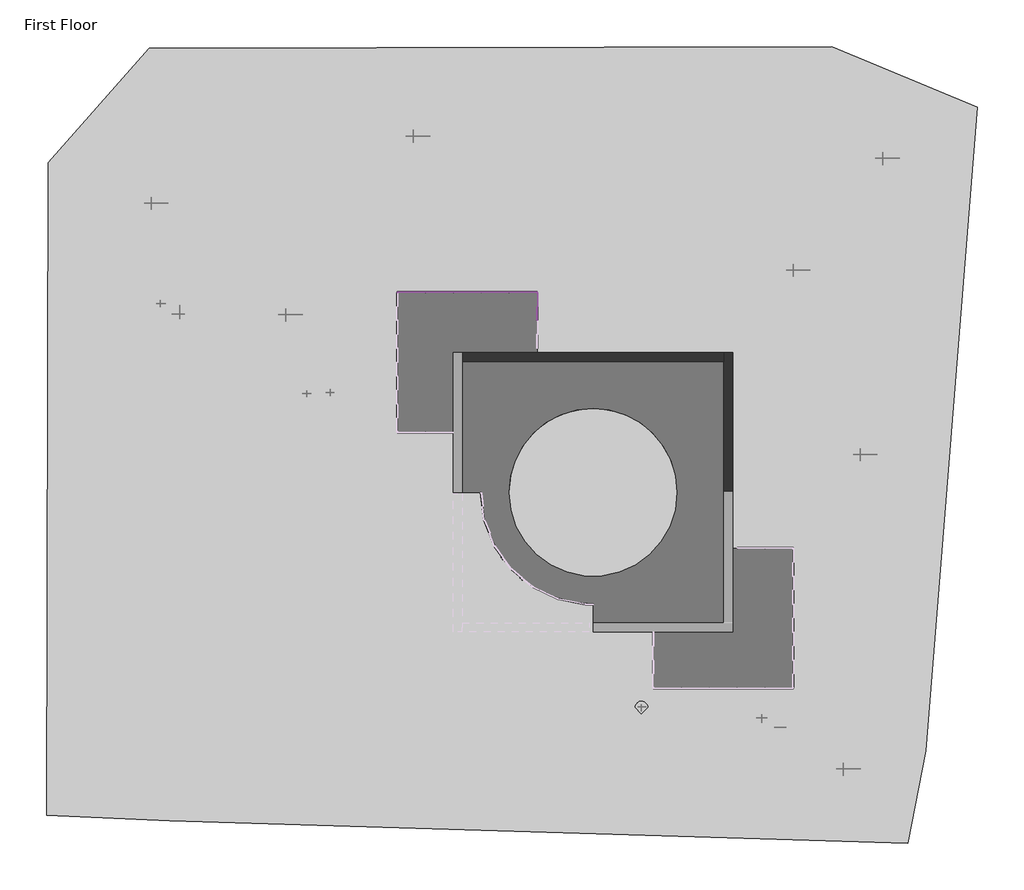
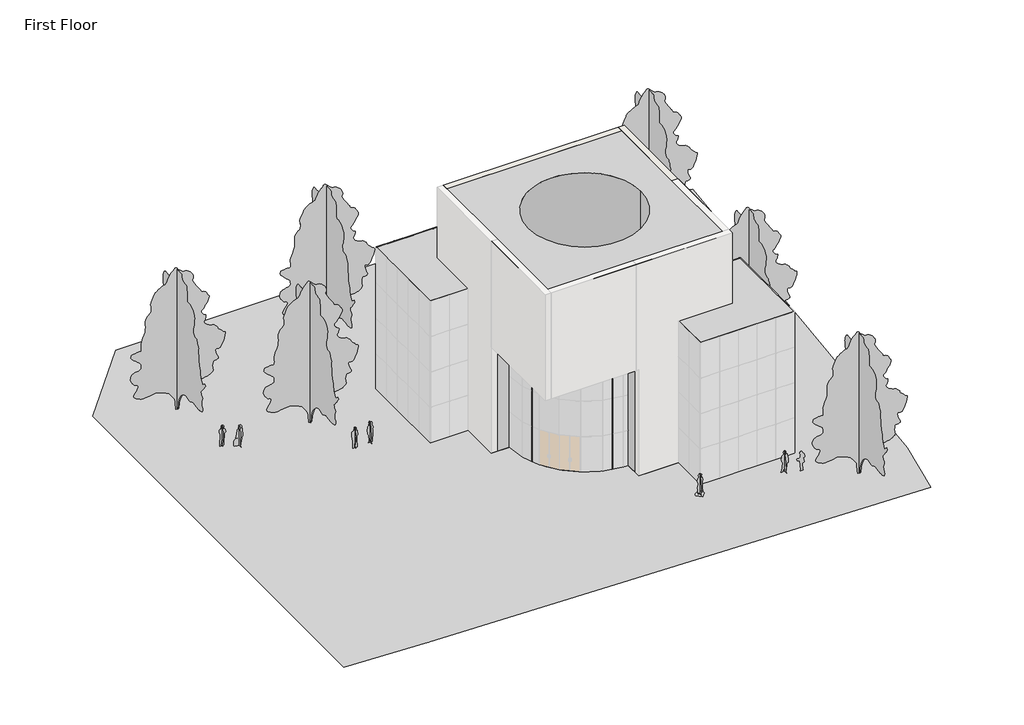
# One storey, part 4 of 4: 65 members, 24 plates, 10 proxies, 7 geographic elements, 2 slabs, 2 walls.
"""IFC4 building model written with IfcOpenShell, lengths in millimetres."""

from ifc_helpers import new_model, si_unit, point, frame, frame_2d, origin, origin_with_axes, place, context, project, spatial, polyline, circle_curve, trimmed, segment, composite_curve, outline, extrude, faceted_brep, triangles, transform, mapped, element, save
from ifc_brep_helpers import plane_surface, cylinder_surface, revolved_surface, advanced_brep
from components import rpc_female_16ef0111, rpc_female_936a91ee, rpc_female_6119fb87, rpc_female_aec5a013, rpc_male_28878092, rpc_male_2293c1c2, rpc_male_04e7faa4, rpc_tree_deciduous_lombardy_poplar_40_01077960, member_6604d1e0, member_9fd3d903, member_5e617a80, member_cbdb9076, member_74941792, member_7e523723, system_panel_glazed_9c75bc08

model = new_model("IFC4")

# Units and contexts
model_context = context("Model", 3, world=origin())
ifc_project = project(units=[si_unit("LENGTHUNIT", "METRE", prefix="MILLI")], contexts=[model_context])

# Site, building, storey
site = spatial("IfcSite", under=ifc_project)
building = spatial("IfcBuilding", under=site)
storey = spatial("IfcBuildingStorey", under=building, Name="First Floor", Elevation=0.0)

# Proxies
placement = place(None, origin())
element("IfcBuildingElementProxy", 1, Name="Building Element Proxy", at=placement, inside=storey, context=model_context, shape_type="Tessellation", body=[
    triangles([(15430.4860474, -16704.0443573, 0.0), (-32394.1622314, 15362.4204346, 0.0), (-26903.7717773, 21610.1041992, 0.0), (10298.3481445, 21704.765863, 0.0), (18249.9465088, 18391.6006531, 0.0), (14463.471817, -21745.0378235, 0.0), (-25767.8294861, -20514.4338684, 0.0), (-32488.8238953, -20230.448877, 0.0)], [[8, 7, 2], [3, 2, 7], [7, 4, 3], [1, 4, 7], [5, 4, 1], [1, 7, 6]], closed=False),
])
element("IfcBuildingElementProxy", 2, Name="Central Hall : Central Hall", ObjectType="Central Hall : Central Hall", at=placement, inside=storey, context=model_context, shape_type="AdvancedBrep", body=[
    advanced_brep(
    [(4920.7859619, 5010.3465511, 0.0), (-10319.2140381, 5010.3465511, 0.0), (-10319.2140381, 5010.3465511, 18288.0), (4920.7859619, 5010.3465511, 18288.0), (-10319.2140381, -2609.6534489, 0.0), (-10319.2140381, -2609.6534489, 9144.0), (-10319.2140381, -10229.6534489, 9144.0), (-10319.2140381, -10229.6534489, 18288.0), (4920.7859619, -10229.6534489, 0.0), (4920.7859619, -10229.6534489, 18288.0), (-2699.2140381, -10229.6534489, 9144.0), (-2699.2140381, -10229.6534489, 0.0), (1872.7859619, -2609.6534489, 18288.0), (-7271.2140381, -2609.6534489, 18288.0), (-2699.2140381, -8705.6534489, 0.0), (-8795.2140381, -2609.6534489, 0.0), (-7271.2140381, -2609.6534489, 0.0), (1872.7859619, -2609.6534489, 0.0), (-8795.2140381, -2609.6534489, 9144.0), (-2699.2140381, -8705.6534489, 9144.0)],
    [
        (0, 1),
        (1, 2),
        (2, 3),
        (3, 0),
        (1, 4),
        (4, 5),
        (5, 6),
        (6, 7),
        (7, 2),
        (8, 9),
        (9, 7),
        (6, 10),
        (10, 11),
        (11, 8),
        (3, 9),
        (8, 0),
        (12, 13, circle_curve(frame((-2699.2140381, -2609.6534489, 18288.0), z_axis=(0.0, 0.0, -1.0), x_axis=(0.0, -1.0, 0.0)), 4572.0)),
        (13, 12, circle_curve(frame((-2699.2140381, -2609.6534489, 18288.0), z_axis=(0.0, 0.0, -1.0), x_axis=(0.0, 1.0, 0.0)), 4572.0)),
        (11, 14),
        (14, 15, circle_curve(frame((-2699.2140381, -2609.6534489, 0.0), z_axis=(0.0, 0.0, -1.0), x_axis=(-1.0, 0.0, 0.0)), 6096.0)),
        (15, 4),
        (16, 17, circle_curve(frame((-2699.2140381, -2609.6534489, 0.0), z_axis=(0.0, 0.0, 1.0), x_axis=(0.0, -1.0, 0.0)), 4572.0)),
        (17, 16, circle_curve(frame((-2699.2140381, -2609.6534489, 0.0), z_axis=(0.0, 0.0, 1.0), x_axis=(0.0, 1.0, 0.0)), 4572.0)),
        (16, 13),
        (12, 17),
        (15, 18),
        (18, 5),
        (10, 19),
        (19, 14),
        (19, 18, circle_curve(frame((-2699.2140381, -2609.6534489, 9144.0), z_axis=(0.0, 0.0, -1.0), x_axis=(-1.0, 0.0, 0.0)), 6096.0)),
    ],
    [
        plane_surface(frame((-2699.2140381, 5010.3465511, 0.0), z_axis=(0.0, 1.0, 0.0), x_axis=(-1.0, 0.0, 0.0))),
        plane_surface(frame((-10319.2140381, -2609.6534489, 0.0), z_axis=(-1.0, 0.0, 0.0), x_axis=(0.0, -1.0, 0.0))),
        plane_surface(frame((-2699.2140381, -10229.6534489, 0.0), z_axis=(0.0, -1.0, 0.0), x_axis=(1.0, 0.0, 0.0))),
        plane_surface(frame((4920.7859619, -2609.6534489, 0.0), z_axis=(1.0, 0.0, 0.0), x_axis=(0.0, 1.0, 0.0))),
        plane_surface(frame((-2699.2140381, -2609.6534489, 18288.0), z_axis=(0.0, 0.0, 1.0), x_axis=(1.0, 0.0, 0.0))),
        plane_surface(frame((-2699.2140381, -2609.6534489, 0.0), z_axis=(0.0, 0.0, -1.0), x_axis=(0.0, -1.0, 0.0))),
        revolved_surface(polyline([(-2699.2140381, -7181.6534489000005, 18288.0), (-2699.2140381, -7181.6534489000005, 0.0)]), (-2699.2140381, -2609.6534489, 0.0), (0.0, 0.0, 1.0)),
        revolved_surface(polyline([(-2699.2140381, 1962.3465511, 18288.0), (-2699.2140381, 1962.3465511, 0.0)]), (-2699.2140381, -2609.6534489, 0.0), (0.0, 0.0, 1.0)),
        plane_surface(frame((-9557.2140381, -2609.6534489, 0.0), z_axis=(0.0, -1.0, 0.0), x_axis=(-1.0, 0.0, 0.0))),
        plane_surface(frame((-2699.2140381, -9467.6534489, 0.0), z_axis=(-1.0, 0.0, 0.0), x_axis=(0.0, 1.0, 0.0))),
        cylinder_surface(frame((-2699.2140381, -2609.6534489, 0.0), z_axis=(0.0, 0.0, 1.0), x_axis=(-1.0, 0.0, 0.0)), 6096.0),
        plane_surface(frame((-6966.4140381, -6876.8534489, 9144.0), z_axis=(0.0, 0.0, -1.0), x_axis=(1.0, 0.0, 0.0))),
    ],
    [
        (0, [[1, 2, 3, 4]]),
        (1, [[-2, 5, 6, 7, 8, 9]]),
        (2, [[10, 11, -8, 12, 13, 14]]),
        (3, [[-4, 15, -10, 16]]),
        (4, [[-3, -9, -11, -15], [17, 18]]),
        (5, [[-1, -16, -14, 19, 20, 21, -5], [22, 23]]),
        (6, [[24, -17, 25, -22]]),
        (7, [[-24, -23, -25, -18]]),
        (8, [[26, 27, -6, -21]]),
        (9, [[28, 29, -19, -13]]),
        (10, [[-26, -20, -29, 30]]),
        (11, [[-27, -30, -28, -12, -7]]),
    ],
),
])
rpc_female_shape = rpc_female_16ef0111(model_context)
element("IfcBuildingElementProxy", 3, Name="RPC Female : Cathy", ObjectType="RPC Female : Cathy", at=placement, inside=storey, context=model_context, shape_type="MappedRepresentation", body=[
    mapped(rpc_female_shape, transform((-25301.2749413, 7226.184638, 0.0), x_axis=(1.0, 0.0, 0.0), y_axis=(0.0, 1.0, 0.0), z_axis=(0.0, 0.0, 1.0))),
])
rpc_female_2_shape = rpc_female_936a91ee(model_context)
element("IfcBuildingElementProxy", 4, Name="RPC Female : Tina", ObjectType="RPC Female : Tina", at=placement, inside=storey, context=model_context, shape_type="MappedRepresentation", body=[
    mapped(rpc_female_2_shape, transform((-65.4799403, -14344.4534489, 0.0), x_axis=(1.0, 0.0, 0.0), y_axis=(0.0, 1.0, 0.0), z_axis=(0.0, 0.0, 1.0))),
])
rpc_female_3_shape = rpc_female_6119fb87(model_context)
element("IfcBuildingElementProxy", 5, Name="RPC Female : YinYin", ObjectType="RPC Female : YinYin", at=placement, inside=storey, context=model_context, shape_type="MappedRepresentation", body=[
    mapped(rpc_female_3_shape, transform((-17007.9779084, 2781.4965511, 0.0), x_axis=(1.0, 0.0, 0.0), y_axis=(0.0, 1.0, 0.0), z_axis=(0.0, 0.0, 1.0))),
])
rpc_female_4_shape = rpc_female_aec5a013(model_context)
element("IfcBuildingElementProxy", 6, Name="RPC Female : Lisa", ObjectType="RPC Female : Lisa", at=placement, inside=storey, context=model_context, shape_type="MappedRepresentation", body=[
    mapped(rpc_female_4_shape, transform((7498.479708, -15411.2534489, 0.0), x_axis=(1.0, 0.0, 0.0), y_axis=(0.0, 1.0, 0.0), z_axis=(0.0, 0.0, 1.0))),
])
rpc_male_shape = rpc_male_28878092(model_context)
element("IfcBuildingElementProxy", 7, Name="RPC Male : Dwayne", ObjectType="RPC Male : Dwayne", at=placement, inside=storey, context=model_context, shape_type="MappedRepresentation", body=[
    mapped(rpc_male_shape, transform((-18311.3639198, 2781.4965511, 0.0), x_axis=(1.0, 0.0, 0.0), y_axis=(0.0, 1.0, 0.0), z_axis=(0.0, 0.0, 1.0))),
])
rpc_male_2_shape = rpc_male_2293c1c2(model_context)
element("IfcBuildingElementProxy", 8, Name="RPC Male : Alex", ObjectType="RPC Male : Alex", at=placement, inside=storey, context=model_context, shape_type="MappedRepresentation", body=[
    mapped(rpc_male_2_shape, transform((6491.1991467, -14954.0534489, 0.0), x_axis=(1.0, 0.0, 0.0), y_axis=(0.0, 1.0, 0.0), z_axis=(0.0, 0.0, 1.0))),
])
rpc_male_3_shape = rpc_male_04e7faa4(model_context)
element("IfcBuildingElementProxy", 9, Name="RPC Male : Jay", ObjectType="RPC Male : Jay", at=placement, inside=storey, context=model_context, shape_type="MappedRepresentation", body=[
    mapped(rpc_male_3_shape, transform((-26312.1907155, 7683.384638, 0.0), x_axis=(1.0, 0.0, 0.0), y_axis=(0.0, 1.0, 0.0), z_axis=(0.0, 0.0, 1.0))),
])
element("IfcBuildingElementProxy", 10, Name="Wings : Wings", ObjectType="Wings : Wings", at=placement, inside=storey, context=model_context, shape_type="SweptSolid", body=[
    extrude(outline(polyline([(-13367.2140381, 672.984638), (-13367.2140381, 8292.984638), (-5747.2140381, 8292.984638), (-5747.2140381, 5244.984638), (-5747.2140381, 5010.3465511), (-10319.2140381, 5010.3465511), (-10319.2140381, 672.984638), (-13367.2140381, 672.984638)])), origin_with_axes(), (0.0, 0.0, 1.0), 12192.0),
    extrude(outline(polyline([(583.4240488, -13277.6534489), (583.4240488, -10229.6534489), (4920.7859619, -10229.6534489), (4920.7859619, -5657.6534489), (5155.4240488, -5657.6534489), (8203.4240488, -5657.6534489), (8203.4240488, -13277.6534489), (583.4240488, -13277.6534489)])), origin_with_axes(), (0.0, 0.0, 1.0), 12192.0),
])

# Geographic elements
rpc_tree_deciduous_lombardy_poplar_40_shape = rpc_tree_deciduous_lombardy_poplar_40_01077960(model_context)
element("IfcGeographicElement", 11, ObjectType="RPC Tree - Deciduous : Lombardy Poplar - 40'", at=placement, inside=storey, context=model_context, shape_type="MappedRepresentation", body=[
    mapped(rpc_tree_deciduous_lombardy_poplar_40_shape, transform((-26778.4140381, 13169.784638, 0.0), x_axis=(1.0, 0.0, 0.0), y_axis=(0.0, 1.0, 0.0), z_axis=(0.0, 0.0, 1.0))),
])
element("IfcGeographicElement", 12, ObjectType="RPC Tree - Deciduous : Lombardy Poplar - 40'", at=placement, inside=storey, context=model_context, shape_type="MappedRepresentation", body=[
    mapped(rpc_tree_deciduous_lombardy_poplar_40_shape, transform((-19463.2140381, 7073.784638, 0.0), x_axis=(1.0, 0.0, 0.0), y_axis=(0.0, 1.0, 0.0), z_axis=(0.0, 0.0, 1.0))),
])
element("IfcGeographicElement", 13, ObjectType="RPC Tree - Deciduous : Lombardy Poplar - 40'", at=placement, inside=storey, context=model_context, shape_type="MappedRepresentation", body=[
    mapped(rpc_tree_deciduous_lombardy_poplar_40_shape, transform((-12509.9640381, 16827.384638, 0.0), x_axis=(1.0, 0.0, 0.0), y_axis=(0.0, 1.0, 0.0), z_axis=(0.0, 0.0, 1.0))),
])
element("IfcGeographicElement", 14, ObjectType="RPC Tree - Deciduous : Lombardy Poplar - 40'", at=placement, inside=storey, context=model_context, shape_type="MappedRepresentation", body=[
    mapped(rpc_tree_deciduous_lombardy_poplar_40_shape, transform((13080.2240488, 15608.184638, 0.0), x_axis=(1.0, 0.0, 0.0), y_axis=(0.0, 1.0, 0.0), z_axis=(0.0, 0.0, 1.0))),
])
element("IfcGeographicElement", 15, ObjectType="RPC Tree - Deciduous : Lombardy Poplar - 40'", at=placement, inside=storey, context=model_context, shape_type="MappedRepresentation", body=[
    mapped(rpc_tree_deciduous_lombardy_poplar_40_shape, transform((8203.4240488, 9512.184638, 0.0), x_axis=(1.0, 0.0, 0.0), y_axis=(0.0, 1.0, 0.0), z_axis=(0.0, 0.0, 1.0))),
])
element("IfcGeographicElement", 16, ObjectType="RPC Tree - Deciduous : Lombardy Poplar - 40'", at=placement, inside=storey, context=model_context, shape_type="MappedRepresentation", body=[
    mapped(rpc_tree_deciduous_lombardy_poplar_40_shape, transform((11861.0240488, -546.215362, 0.0), x_axis=(1.0, 0.0, 0.0), y_axis=(0.0, 1.0, 0.0), z_axis=(0.0, 0.0, 1.0))),
])
element("IfcGeographicElement", 17, ObjectType="RPC Tree - Deciduous : Lombardy Poplar - 40'", at=placement, inside=storey, context=model_context, shape_type="MappedRepresentation", body=[
    mapped(rpc_tree_deciduous_lombardy_poplar_40_shape, transform((10946.6240488, -17697.2534489, 0.0), x_axis=(1.0, 0.0, 0.0), y_axis=(0.0, 1.0, 0.0), z_axis=(0.0, 0.0, 1.0))),
])

# Members
member_shape = member_6604d1e0(model_context)
element("IfcMember", 18, ObjectType="Rectangular Mullion : 1\" Square", at=placement, inside=storey, context=model_context, shape_type="MappedRepresentation", body=[
    mapped(member_shape, transform((-10331.9140381, 8292.984638, 0.0), x_axis=(0.0, 0.0, -1.0), y_axis=(0.0, 1.0, 0.0), z_axis=(1.0, 0.0, 0.0))),
])
element("IfcMember", 19, ObjectType="Rectangular Mullion : 1\" Square", at=placement, inside=storey, context=model_context, shape_type="MappedRepresentation", body=[
    mapped(member_shape, transform((-8807.9140381, 8292.984638, 0.0), x_axis=(0.0, 0.0, -1.0), y_axis=(0.0, 1.0, 0.0), z_axis=(1.0, 0.0, 0.0))),
])
element("IfcMember", 20, ObjectType="Rectangular Mullion : 1\" Square", at=placement, inside=storey, context=model_context, shape_type="MappedRepresentation", body=[
    mapped(member_shape, transform((-7283.9140381, 8292.984638, 0.0), x_axis=(0.0, 0.0, -1.0), y_axis=(0.0, 1.0, 0.0), z_axis=(1.0, 0.0, 0.0))),
])
member_2_shape = member_9fd3d903(model_context)
element("IfcMember", 21, ObjectType="Rectangular Mullion : 1\" Square", at=placement, inside=storey, context=model_context, shape_type="MappedRepresentation", body=[
    mapped(member_2_shape, transform((-10306.5140381, 8292.984638, 6096.0), x_axis=(0.0, 0.0, 1.0), y_axis=(0.0, 1.0, 0.0), z_axis=(-1.0, 0.0, 0.0))),
])
element("IfcMember", 22, ObjectType="Rectangular Mullion : 1\" Square", at=placement, inside=storey, context=model_context, shape_type="MappedRepresentation", body=[
    mapped(member_2_shape, transform((-10306.5140381, 8292.984638, 3048.0), x_axis=(0.0, 0.0, 1.0), y_axis=(0.0, 1.0, 0.0), z_axis=(-1.0, 0.0, 0.0))),
])
element("IfcMember", 23, ObjectType="Rectangular Mullion : 1\" Square", at=placement, inside=storey, context=model_context, shape_type="MappedRepresentation", body=[
    mapped(member_2_shape, transform((-8782.5140381, 8292.984638, 6096.0), x_axis=(0.0, 0.0, 1.0), y_axis=(0.0, 1.0, 0.0), z_axis=(-1.0, 0.0, 0.0))),
])
element("IfcMember", 24, ObjectType="Rectangular Mullion : 1\" Square", at=placement, inside=storey, context=model_context, shape_type="MappedRepresentation", body=[
    mapped(member_2_shape, transform((-11830.5140381, 8292.984638, 3048.0), x_axis=(0.0, 0.0, 1.0), y_axis=(0.0, 1.0, 0.0), z_axis=(-1.0, 0.0, 0.0))),
])
element("IfcMember", 25, ObjectType="Rectangular Mullion : 1\" Square", at=placement, inside=storey, context=model_context, shape_type="MappedRepresentation", body=[
    mapped(member_2_shape, transform((-8782.5140381, 8292.984638, 3048.0), x_axis=(0.0, 0.0, 1.0), y_axis=(0.0, 1.0, 0.0), z_axis=(-1.0, 0.0, 0.0))),
])
element("IfcMember", 26, ObjectType="Rectangular Mullion : 1\" Square", at=placement, inside=storey, context=model_context, shape_type="MappedRepresentation", body=[
    mapped(member_2_shape, transform((-11830.5140381, 8292.984638, 9144.0), x_axis=(0.0, 0.0, 1.0), y_axis=(0.0, 1.0, 0.0), z_axis=(-1.0, 0.0, 0.0))),
])
element("IfcMember", 27, ObjectType="Rectangular Mullion : 1\" Square", at=placement, inside=storey, context=model_context, shape_type="MappedRepresentation", body=[
    mapped(member_2_shape, transform((-8782.5140381, 8292.984638, 9144.0), x_axis=(0.0, 0.0, 1.0), y_axis=(0.0, 1.0, 0.0), z_axis=(-1.0, 0.0, 0.0))),
])
element("IfcMember", 28, ObjectType="Rectangular Mullion : 1\" Square", at=placement, inside=storey, context=model_context, shape_type="MappedRepresentation", body=[
    mapped(member_2_shape, transform((-10306.5140381, 8292.984638, 9144.0), x_axis=(0.0, 0.0, 1.0), y_axis=(0.0, 1.0, 0.0), z_axis=(-1.0, 0.0, 0.0))),
])
element("IfcMember", 29, ObjectType="Rectangular Mullion : 1\" Square", at=placement, inside=storey, context=model_context, shape_type="MappedRepresentation", body=[
    mapped(member_2_shape, transform((-11830.5140381, 8292.984638, 6096.0), x_axis=(0.0, 0.0, 1.0), y_axis=(0.0, 1.0, 0.0), z_axis=(-1.0, 0.0, 0.0))),
])
member_3_shape = member_5e617a80(model_context)
element("IfcMember", 30, ObjectType="Rectangular Mullion : 1\" Square", at=placement, inside=storey, context=model_context, shape_type="MappedRepresentation", body=[
    mapped(member_3_shape, transform((-5747.2140381, 8267.584638, 3048.0), x_axis=(0.0, 0.0, 1.0), y_axis=(1.0, 0.0, 0.0), z_axis=(0.0, 1.0, 0.0))),
])
element("IfcMember", 31, ObjectType="Rectangular Mullion : 1\" Square", at=placement, inside=storey, context=model_context, shape_type="MappedRepresentation", body=[
    mapped(member_3_shape, transform((-5747.2140381, 8267.584638, 9144.0), x_axis=(0.0, 0.0, 1.0), y_axis=(1.0, 0.0, 0.0), z_axis=(0.0, 1.0, 0.0))),
])
element("IfcMember", 32, ObjectType="Rectangular Mullion : 1\" Square", at=placement, inside=storey, context=model_context, shape_type="MappedRepresentation", body=[
    mapped(member_3_shape, transform((-5747.2140381, 8267.584638, 6096.0), x_axis=(0.0, 0.0, 1.0), y_axis=(1.0, 0.0, 0.0), z_axis=(0.0, 1.0, 0.0))),
])
element("IfcMember", 33, ObjectType="Rectangular Mullion : 1\" Square", at=placement, inside=storey, context=model_context, shape_type="MappedRepresentation", body=[
    mapped(member_3_shape, transform((-13341.8140381, 8292.984638, 9144.0), x_axis=(0.0, 0.0, 1.0), y_axis=(0.0, 1.0, 0.0), z_axis=(-1.0, 0.0, 0.0))),
])
element("IfcMember", 34, ObjectType="Rectangular Mullion : 1\" Square", at=placement, inside=storey, context=model_context, shape_type="MappedRepresentation", body=[
    mapped(member_3_shape, transform((-7258.5140381, 8292.984638, 3048.0), x_axis=(0.0, 0.0, 1.0), y_axis=(0.0, 1.0, 0.0), z_axis=(-1.0, 0.0, 0.0))),
])
element("IfcMember", 35, ObjectType="Rectangular Mullion : 1\" Square", at=placement, inside=storey, context=model_context, shape_type="MappedRepresentation", body=[
    mapped(member_3_shape, transform((-7258.5140381, 8292.984638, 6096.0), x_axis=(0.0, 0.0, 1.0), y_axis=(0.0, 1.0, 0.0), z_axis=(-1.0, 0.0, 0.0))),
])
element("IfcMember", 36, ObjectType="Rectangular Mullion : 1\" Square", at=placement, inside=storey, context=model_context, shape_type="MappedRepresentation", body=[
    mapped(member_3_shape, transform((-13341.8140381, 8292.984638, 3048.0), x_axis=(0.0, 0.0, 1.0), y_axis=(0.0, 1.0, 0.0), z_axis=(-1.0, 0.0, 0.0))),
])
element("IfcMember", 37, ObjectType="Rectangular Mullion : 1\" Square", at=placement, inside=storey, context=model_context, shape_type="MappedRepresentation", body=[
    mapped(member_3_shape, transform((-13341.8140381, 8292.984638, 6096.0), x_axis=(0.0, 0.0, 1.0), y_axis=(0.0, 1.0, 0.0), z_axis=(-1.0, 0.0, 0.0))),
])
element("IfcMember", 38, ObjectType="Rectangular Mullion : 1\" Square", at=placement, inside=storey, context=model_context, shape_type="MappedRepresentation", body=[
    mapped(member_3_shape, transform((-7258.5140381, 8292.984638, 9144.0), x_axis=(0.0, 0.0, 1.0), y_axis=(0.0, 1.0, 0.0), z_axis=(-1.0, 0.0, 0.0))),
])
member_4_shape = member_cbdb9076(model_context)
element("IfcMember", 39, ObjectType="Rectangular Mullion : 1\" Square", at=placement, inside=storey, context=model_context, shape_type="MappedRepresentation", body=[
    mapped(member_4_shape, transform((-5747.2140381, 6768.984638, 9144.0), x_axis=(0.0, 1.0, 0.0), y_axis=(1.0, 0.0, 0.0), z_axis=(0.0, 0.0, -1.0))),
])
element("IfcMember", 40, ObjectType="Rectangular Mullion : 1\" Square", at=placement, inside=storey, context=model_context, shape_type="MappedRepresentation", body=[
    mapped(member_4_shape, transform((-10319.2140381, 8292.984638, 9144.0), x_axis=(-1.0, 0.0, 0.0), y_axis=(0.0, 1.0, 0.0), z_axis=(0.0, 0.0, -1.0))),
])
element("IfcMember", 41, ObjectType="Rectangular Mullion : 1\" Square", at=placement, inside=storey, context=model_context, shape_type="MappedRepresentation", body=[
    mapped(member_4_shape, transform((-8795.2140381, 8292.984638, 9144.0), x_axis=(-1.0, 0.0, 0.0), y_axis=(0.0, 1.0, 0.0), z_axis=(0.0, 0.0, -1.0))),
])
element("IfcMember", 42, ObjectType="Rectangular Mullion : 1\" Square", at=placement, inside=storey, context=model_context, shape_type="MappedRepresentation", body=[
    mapped(member_4_shape, transform((-7271.2140381, 8292.984638, 9144.0), x_axis=(-1.0, 0.0, 0.0), y_axis=(0.0, 1.0, 0.0), z_axis=(0.0, 0.0, -1.0))),
])
element("IfcMember", 43, ObjectType="Rectangular Mullion : 1\" Square", at=placement, inside=storey, context=model_context, shape_type="MappedRepresentation", body=[
    mapped(member_4_shape, transform((-11843.2140381, 8292.984638, 9144.0), x_axis=(-1.0, 0.0, 0.0), y_axis=(0.0, 1.0, 0.0), z_axis=(0.0, 0.0, -1.0))),
])
element("IfcMember", 44, ObjectType="Rectangular Mullion : 1\" Square", at=placement, inside=storey, context=model_context, shape_type="MappedRepresentation", body=[
    mapped(member_4_shape, transform((-5747.2140381, 6768.984638, 3048.0), x_axis=(0.0, 1.0, 0.0), y_axis=(1.0, 0.0, 0.0), z_axis=(0.0, 0.0, -1.0))),
])
element("IfcMember", 45, ObjectType="Rectangular Mullion : 1\" Square", at=placement, inside=storey, context=model_context, shape_type="MappedRepresentation", body=[
    mapped(member_4_shape, transform((-5747.2140381, 6768.984638, 6096.0), x_axis=(0.0, 1.0, 0.0), y_axis=(1.0, 0.0, 0.0), z_axis=(0.0, 0.0, -1.0))),
])
element("IfcMember", 46, ObjectType="Rectangular Mullion : 1\" Square", at=placement, inside=storey, context=model_context, shape_type="MappedRepresentation", body=[
    mapped(member_4_shape, transform((-11843.2140381, 8292.984638, 3048.0), x_axis=(-1.0, 0.0, 0.0), y_axis=(0.0, 1.0, 0.0), z_axis=(0.0, 0.0, -1.0))),
])
element("IfcMember", 47, ObjectType="Rectangular Mullion : 1\" Square", at=placement, inside=storey, context=model_context, shape_type="MappedRepresentation", body=[
    mapped(member_4_shape, transform((-10319.2140381, 8292.984638, 6096.0), x_axis=(-1.0, 0.0, 0.0), y_axis=(0.0, 1.0, 0.0), z_axis=(0.0, 0.0, -1.0))),
])
element("IfcMember", 48, ObjectType="Rectangular Mullion : 1\" Square", at=placement, inside=storey, context=model_context, shape_type="MappedRepresentation", body=[
    mapped(member_4_shape, transform((-10319.2140381, 8292.984638, 3048.0), x_axis=(-1.0, 0.0, 0.0), y_axis=(0.0, 1.0, 0.0), z_axis=(0.0, 0.0, -1.0))),
])
element("IfcMember", 49, ObjectType="Rectangular Mullion : 1\" Square", at=placement, inside=storey, context=model_context, shape_type="MappedRepresentation", body=[
    mapped(member_4_shape, transform((-8795.2140381, 8292.984638, 6096.0), x_axis=(-1.0, 0.0, 0.0), y_axis=(0.0, 1.0, 0.0), z_axis=(0.0, 0.0, -1.0))),
])
element("IfcMember", 50, ObjectType="Rectangular Mullion : 1\" Square", at=placement, inside=storey, context=model_context, shape_type="MappedRepresentation", body=[
    mapped(member_4_shape, transform((-8795.2140381, 8292.984638, 3048.0), x_axis=(-1.0, 0.0, 0.0), y_axis=(0.0, 1.0, 0.0), z_axis=(0.0, 0.0, -1.0))),
])
element("IfcMember", 51, ObjectType="Rectangular Mullion : 1\" Square", at=placement, inside=storey, context=model_context, shape_type="MappedRepresentation", body=[
    mapped(member_4_shape, transform((-7271.2140381, 8292.984638, 6096.0), x_axis=(-1.0, 0.0, 0.0), y_axis=(0.0, 1.0, 0.0), z_axis=(0.0, 0.0, -1.0))),
])
element("IfcMember", 52, ObjectType="Rectangular Mullion : 1\" Square", at=placement, inside=storey, context=model_context, shape_type="MappedRepresentation", body=[
    mapped(member_4_shape, transform((-7271.2140381, 8292.984638, 3048.0), x_axis=(-1.0, 0.0, 0.0), y_axis=(0.0, 1.0, 0.0), z_axis=(0.0, 0.0, -1.0))),
])
element("IfcMember", 53, ObjectType="Rectangular Mullion : 1\" Square", at=placement, inside=storey, context=model_context, shape_type="MappedRepresentation", body=[
    mapped(member_4_shape, transform((-11843.2140381, 8292.984638, 6096.0), x_axis=(-1.0, 0.0, 0.0), y_axis=(0.0, 1.0, 0.0), z_axis=(0.0, 0.0, -1.0))),
])
element("IfcMember", 54, ObjectType="Rectangular Mullion : 1\" Square", at=placement, inside=storey, context=model_context, shape_type="MappedRepresentation", body=[
    mapped(member_shape, transform((-11830.5140381, 8292.984638, 12192.0), x_axis=(0.0, 0.0, 1.0), y_axis=(0.0, 1.0, 0.0), z_axis=(-1.0, 0.0, 0.0))),
])
element("IfcMember", 55, ObjectType="Rectangular Mullion : 1\" Square", at=placement, inside=storey, context=model_context, shape_type="MappedRepresentation", body=[
    mapped(member_shape, transform((-10306.5140381, 8292.984638, 12192.0), x_axis=(0.0, 0.0, 1.0), y_axis=(0.0, 1.0, 0.0), z_axis=(-1.0, 0.0, 0.0))),
])
element("IfcMember", 56, ObjectType="Rectangular Mullion : 1\" Square", at=placement, inside=storey, context=model_context, shape_type="MappedRepresentation", body=[
    mapped(member_shape, transform((-8782.5140381, 8292.984638, 12192.0), x_axis=(0.0, 0.0, 1.0), y_axis=(0.0, 1.0, 0.0), z_axis=(-1.0, 0.0, 0.0))),
])
member_5_shape = member_74941792(model_context)
element("IfcMember", 57, ObjectType="Rectangular Mullion : 1\" Square", at=placement, inside=storey, context=model_context, shape_type="MappedRepresentation", body=[
    mapped(member_5_shape, transform((-11855.9140381, 8292.984638, 0.0), x_axis=(0.0, 0.0, -1.0), y_axis=(0.0, 1.0, 0.0), z_axis=(1.0, 0.0, 0.0))),
])
element("IfcMember", 58, ObjectType="Rectangular Mullion : 1\" Square", at=placement, inside=storey, context=model_context, shape_type="MappedRepresentation", body=[
    mapped(member_5_shape, transform((-5772.6140381, 8292.984638, 0.0), x_axis=(0.0, 0.0, -1.0), y_axis=(0.0, 1.0, 0.0), z_axis=(1.0, 0.0, 0.0))),
])
element("IfcMember", 59, ObjectType="Rectangular Mullion : 1\" Square", at=placement, inside=storey, context=model_context, shape_type="MappedRepresentation", body=[
    mapped(member_5_shape, transform((-13367.2140381, 8267.584638, 0.0), x_axis=(0.0, 0.0, -1.0), y_axis=(-1.0, 0.0, 0.0), z_axis=(0.0, 1.0, 0.0))),
])
element("IfcMember", 60, ObjectType="Rectangular Mullion : 1\" Square", at=placement, inside=storey, context=model_context, shape_type="MappedRepresentation", body=[
    mapped(member_5_shape, transform((-5747.2140381, 8267.584638, 12192.0), x_axis=(0.0, 0.0, 1.0), y_axis=(1.0, 0.0, 0.0), z_axis=(0.0, 1.0, 0.0))),
])
element("IfcMember", 61, ObjectType="Rectangular Mullion : 1\" Square", at=placement, inside=storey, context=model_context, shape_type="MappedRepresentation", body=[
    mapped(member_5_shape, transform((-7258.5140381, 8292.984638, 12192.0), x_axis=(0.0, 0.0, 1.0), y_axis=(0.0, 1.0, 0.0), z_axis=(-1.0, 0.0, 0.0))),
])
element("IfcMember", 62, ObjectType="Rectangular Mullion : 1\" Square", at=placement, inside=storey, context=model_context, shape_type="MappedRepresentation", body=[
    mapped(member_5_shape, transform((-13341.8140381, 8292.984638, 12192.0), x_axis=(0.0, 0.0, 1.0), y_axis=(0.0, 1.0, 0.0), z_axis=(-1.0, 0.0, 0.0))),
])
element("IfcMember", 63, ObjectType="Rectangular Mullion : 1\" Square", at=placement, inside=storey, context=model_context, shape_type="MappedRepresentation", body=[
    mapped(member_4_shape, transform((-10319.2140381, 8292.984638, 0.0), x_axis=(-1.0, 0.0, 0.0), y_axis=(0.0, 1.0, 0.0), z_axis=(0.0, 0.0, -1.0))),
])
element("IfcMember", 64, ObjectType="Rectangular Mullion : 1\" Square", at=placement, inside=storey, context=model_context, shape_type="MappedRepresentation", body=[
    mapped(member_4_shape, transform((-11843.2140381, 8292.984638, 0.0), x_axis=(-1.0, 0.0, 0.0), y_axis=(0.0, 1.0, 0.0), z_axis=(0.0, 0.0, -1.0))),
])
element("IfcMember", 65, ObjectType="Rectangular Mullion : 1\" Square", at=placement, inside=storey, context=model_context, shape_type="MappedRepresentation", body=[
    mapped(member_4_shape, transform((-8795.2140381, 8292.984638, 0.0), x_axis=(-1.0, 0.0, 0.0), y_axis=(0.0, 1.0, 0.0), z_axis=(0.0, 0.0, -1.0))),
])
element("IfcMember", 66, ObjectType="Rectangular Mullion : 1\" Square", at=placement, inside=storey, context=model_context, shape_type="MappedRepresentation", body=[
    mapped(member_4_shape, transform((-7271.2140381, 8292.984638, 0.0), x_axis=(-1.0, 0.0, 0.0), y_axis=(0.0, 1.0, 0.0), z_axis=(0.0, 0.0, -1.0))),
])
member_6_shape = member_7e523723(model_context)
element("IfcMember", 67, ObjectType="Rectangular Mullion : 1\" Square", at=placement, inside=storey, context=model_context, shape_type="MappedRepresentation", body=[
    mapped(member_6_shape, transform((-5747.2140381, 8292.984638, 9144.0), x_axis=(1.0, 0.0, 0.0), y_axis=(0.0, 1.0, 0.0), z_axis=(0.0, 0.0, 1.0))),
])
element("IfcMember", 68, ObjectType="Rectangular Mullion : 1\" Square", at=placement, inside=storey, context=model_context, shape_type="MappedRepresentation", body=[
    mapped(member_6_shape, transform((-5747.2140381, 8292.984638, 6096.0), x_axis=(1.0, 0.0, 0.0), y_axis=(0.0, 1.0, 0.0), z_axis=(0.0, 0.0, 1.0))),
])
element("IfcMember", 69, ObjectType="Rectangular Mullion : 1\" Square", at=placement, inside=storey, context=model_context, shape_type="MappedRepresentation", body=[
    mapped(member_6_shape, transform((-13367.2140381, 8292.984638, 6096.0), x_axis=(0.0, 1.0, 0.0), y_axis=(-1.0, 0.0, 0.0), z_axis=(0.0, 0.0, 1.0))),
])
element("IfcMember", 70, ObjectType="Rectangular Mullion : 1\" Square", at=placement, inside=storey, context=model_context, shape_type="MappedRepresentation", body=[
    mapped(member_6_shape, transform((-13367.2140381, 8292.984638, 9144.0), x_axis=(0.0, 1.0, 0.0), y_axis=(-1.0, 0.0, 0.0), z_axis=(0.0, 0.0, 1.0))),
])
element("IfcMember", 71, ObjectType="Rectangular Mullion : 1\" Square", at=placement, inside=storey, context=model_context, shape_type="MappedRepresentation", body=[
    mapped(member_6_shape, transform((-5747.2140381, 8292.984638, 3048.0), x_axis=(1.0, 0.0, 0.0), y_axis=(0.0, 1.0, 0.0), z_axis=(0.0, 0.0, 1.0))),
])
element("IfcMember", 72, ObjectType="Rectangular Mullion : 1\" Square", at=placement, inside=storey, context=model_context, shape_type="MappedRepresentation", body=[
    mapped(member_6_shape, transform((-13367.2140381, 8292.984638, 3048.0), x_axis=(0.0, 1.0, 0.0), y_axis=(-1.0, 0.0, 0.0), z_axis=(0.0, 0.0, 1.0))),
])
element("IfcMember", 73, ObjectType="Rectangular Mullion : 1\" Square", at=placement, inside=storey, context=model_context, shape_type="MappedRepresentation", body=[
    mapped(member_6_shape, transform((-5747.2140381, 8292.984638, 6096.0), x_axis=(0.0, 1.0, 0.0), y_axis=(1.0, 0.0, 0.0), z_axis=(0.0, 0.0, -1.0))),
])
element("IfcMember", 74, ObjectType="Rectangular Mullion : 1\" Square", at=placement, inside=storey, context=model_context, shape_type="MappedRepresentation", body=[
    mapped(member_6_shape, transform((-5747.2140381, 8292.984638, 3048.0), x_axis=(0.0, 1.0, 0.0), y_axis=(1.0, 0.0, 0.0), z_axis=(0.0, 0.0, -1.0))),
])
element("IfcMember", 75, ObjectType="Rectangular Mullion : 1\" Square", at=placement, inside=storey, context=model_context, shape_type="MappedRepresentation", body=[
    mapped(member_6_shape, transform((-13367.2140381, 8292.984638, 6096.0), x_axis=(-1.0, 0.0, 0.0), y_axis=(0.0, 1.0, 0.0), z_axis=(0.0, 0.0, -1.0))),
])
element("IfcMember", 76, ObjectType="Rectangular Mullion : 1\" Square", at=placement, inside=storey, context=model_context, shape_type="MappedRepresentation", body=[
    mapped(member_6_shape, transform((-13367.2140381, 8292.984638, 3048.0), x_axis=(-1.0, 0.0, 0.0), y_axis=(0.0, 1.0, 0.0), z_axis=(0.0, 0.0, -1.0))),
])
element("IfcMember", 77, ObjectType="Rectangular Mullion : 1\" Square", at=placement, inside=storey, context=model_context, shape_type="MappedRepresentation", body=[
    mapped(member_6_shape, transform((-5747.2140381, 8292.984638, 9144.0), x_axis=(0.0, 1.0, 0.0), y_axis=(1.0, 0.0, 0.0), z_axis=(0.0, 0.0, -1.0))),
])
element("IfcMember", 78, ObjectType="Rectangular Mullion : 1\" Square", at=placement, inside=storey, context=model_context, shape_type="MappedRepresentation", body=[
    mapped(member_6_shape, transform((-13367.2140381, 8292.984638, 9144.0), x_axis=(-1.0, 0.0, 0.0), y_axis=(0.0, 1.0, 0.0), z_axis=(0.0, 0.0, -1.0))),
])
element("IfcMember", 79, ObjectType="Rectangular Mullion : 1\" Square", at=placement, inside=storey, context=model_context, shape_type="MappedRepresentation", body=[
    mapped(member_6_shape, transform((-5747.2140381, 8292.984638, 0.0), x_axis=(0.0, 1.0, 0.0), y_axis=(1.0, 0.0, 0.0), z_axis=(0.0, 0.0, -1.0))),
])
element("IfcMember", 80, ObjectType="Rectangular Mullion : 1\" Square", at=placement, inside=storey, context=model_context, shape_type="MappedRepresentation", body=[
    mapped(member_6_shape, transform((-13367.2140381, 8292.984638, 0.0), x_axis=(-1.0, 0.0, 0.0), y_axis=(0.0, 1.0, 0.0), z_axis=(0.0, 0.0, -1.0))),
])
element("IfcMember", 81, ObjectType="Rectangular Mullion : 1\" Square", at=placement, inside=storey, context=model_context, shape_type="MappedRepresentation", body=[
    mapped(member_6_shape, transform((-5747.2140381, 8292.984638, 12192.0), x_axis=(1.0, 0.0, 0.0), y_axis=(0.0, 1.0, 0.0), z_axis=(0.0, 0.0, 1.0))),
])
element("IfcMember", 82, ObjectType="Rectangular Mullion : 1\" Square", at=placement, inside=storey, context=model_context, shape_type="MappedRepresentation", body=[
    mapped(member_6_shape, transform((-13367.2140381, 8292.984638, 12192.0), x_axis=(0.0, 1.0, 0.0), y_axis=(-1.0, 0.0, 0.0), z_axis=(0.0, 0.0, 1.0))),
])

# Plates
system_panel_glazed_shape = system_panel_glazed_9c75bc08(model_context)
element("IfcPlate", 83, ObjectType="System Panel : Glazed", at=placement, inside=storey, context=model_context, shape_type="MappedRepresentation", body=[
    mapped(system_panel_glazed_shape, transform((-6509.2140381, 8292.984638, 0.0), x_axis=(-1.0, 0.0, 0.0), y_axis=(0.0, -1.0, 0.0), z_axis=(0.0, 0.0, 1.0))),
])
element("IfcPlate", 84, ObjectType="System Panel : Glazed", at=placement, inside=storey, context=model_context, shape_type="MappedRepresentation", body=[
    mapped(system_panel_glazed_shape, transform((-8033.2140381, 8292.984638, 0.0), x_axis=(-1.0, 0.0, 0.0), y_axis=(0.0, -1.0, 0.0), z_axis=(0.0, 0.0, 1.0))),
])
element("IfcPlate", 85, ObjectType="System Panel : Glazed", at=placement, inside=storey, context=model_context, shape_type="MappedRepresentation", body=[
    mapped(system_panel_glazed_shape, transform((-9557.2140381, 8292.984638, 0.0), x_axis=(-1.0, 0.0, 0.0), y_axis=(0.0, -1.0, 0.0), z_axis=(0.0, 0.0, 1.0))),
])
element("IfcPlate", 86, ObjectType="System Panel : Glazed", at=placement, inside=storey, context=model_context, shape_type="MappedRepresentation", body=[
    mapped(system_panel_glazed_shape, transform((-11081.2140381, 8292.984638, 0.0), x_axis=(-1.0, 0.0, 0.0), y_axis=(0.0, -1.0, 0.0), z_axis=(0.0, 0.0, 1.0))),
])
element("IfcPlate", 87, ObjectType="System Panel : Glazed", at=placement, inside=storey, context=model_context, shape_type="MappedRepresentation", body=[
    mapped(system_panel_glazed_shape, transform((-12605.2140381, 8292.984638, 0.0), x_axis=(-1.0, 0.0, 0.0), y_axis=(0.0, -1.0, 0.0), z_axis=(0.0, 0.0, 1.0))),
])
element("IfcPlate", 88, ObjectType="System Panel : Glazed", at=placement, inside=storey, context=model_context, shape_type="MappedRepresentation", body=[
    mapped(system_panel_glazed_shape, transform((-6509.2140381, 8292.984638, 3048.0), x_axis=(-1.0, 0.0, 0.0), y_axis=(0.0, -1.0, 0.0), z_axis=(0.0, 0.0, 1.0))),
])
element("IfcPlate", 89, ObjectType="System Panel : Glazed", at=placement, inside=storey, context=model_context, shape_type="MappedRepresentation", body=[
    mapped(system_panel_glazed_shape, transform((-8033.2140381, 8292.984638, 3048.0), x_axis=(-1.0, 0.0, 0.0), y_axis=(0.0, -1.0, 0.0), z_axis=(0.0, 0.0, 1.0))),
])
element("IfcPlate", 90, ObjectType="System Panel : Glazed", at=placement, inside=storey, context=model_context, shape_type="MappedRepresentation", body=[
    mapped(system_panel_glazed_shape, transform((-9557.2140381, 8292.984638, 3048.0), x_axis=(-1.0, 0.0, 0.0), y_axis=(0.0, -1.0, 0.0), z_axis=(0.0, 0.0, 1.0))),
])
element("IfcPlate", 91, ObjectType="System Panel : Glazed", at=placement, inside=storey, context=model_context, shape_type="MappedRepresentation", body=[
    mapped(system_panel_glazed_shape, transform((-11081.2140381, 8292.984638, 3048.0), x_axis=(-1.0, 0.0, 0.0), y_axis=(0.0, -1.0, 0.0), z_axis=(0.0, 0.0, 1.0))),
])
element("IfcPlate", 92, ObjectType="System Panel : Glazed", at=placement, inside=storey, context=model_context, shape_type="MappedRepresentation", body=[
    mapped(system_panel_glazed_shape, transform((-12605.2140381, 8292.984638, 3048.0), x_axis=(-1.0, 0.0, 0.0), y_axis=(0.0, -1.0, 0.0), z_axis=(0.0, 0.0, 1.0))),
])
element("IfcPlate", 93, ObjectType="System Panel : Glazed", at=placement, inside=storey, context=model_context, shape_type="MappedRepresentation", body=[
    mapped(system_panel_glazed_shape, transform((-6509.2140381, 8292.984638, 6096.0), x_axis=(-1.0, 0.0, 0.0), y_axis=(0.0, -1.0, 0.0), z_axis=(0.0, 0.0, 1.0))),
])
element("IfcPlate", 94, ObjectType="System Panel : Glazed", at=placement, inside=storey, context=model_context, shape_type="MappedRepresentation", body=[
    mapped(system_panel_glazed_shape, transform((-8033.2140381, 8292.984638, 6096.0), x_axis=(-1.0, 0.0, 0.0), y_axis=(0.0, -1.0, 0.0), z_axis=(0.0, 0.0, 1.0))),
])
element("IfcPlate", 95, ObjectType="System Panel : Glazed", at=placement, inside=storey, context=model_context, shape_type="MappedRepresentation", body=[
    mapped(system_panel_glazed_shape, transform((-9557.2140381, 8292.984638, 6096.0), x_axis=(-1.0, 0.0, 0.0), y_axis=(0.0, -1.0, 0.0), z_axis=(0.0, 0.0, 1.0))),
])
element("IfcPlate", 96, ObjectType="System Panel : Glazed", at=placement, inside=storey, context=model_context, shape_type="MappedRepresentation", body=[
    mapped(system_panel_glazed_shape, transform((-11081.2140381, 8292.984638, 6096.0), x_axis=(-1.0, 0.0, 0.0), y_axis=(0.0, -1.0, 0.0), z_axis=(0.0, 0.0, 1.0))),
])
element("IfcPlate", 97, ObjectType="System Panel : Glazed", at=placement, inside=storey, context=model_context, shape_type="MappedRepresentation", body=[
    mapped(system_panel_glazed_shape, transform((-12605.2140381, 8292.984638, 6096.0), x_axis=(-1.0, 0.0, 0.0), y_axis=(0.0, -1.0, 0.0), z_axis=(0.0, 0.0, 1.0))),
])
element("IfcPlate", 98, ObjectType="System Panel : Glazed", at=placement, inside=storey, context=model_context, shape_type="MappedRepresentation", body=[
    mapped(system_panel_glazed_shape, transform((-6509.2140381, 8292.984638, 9144.0), x_axis=(-1.0, 0.0, 0.0), y_axis=(0.0, -1.0, 0.0), z_axis=(0.0, 0.0, 1.0))),
])
element("IfcPlate", 99, ObjectType="System Panel : Glazed", at=placement, inside=storey, context=model_context, shape_type="MappedRepresentation", body=[
    mapped(system_panel_glazed_shape, transform((-8033.2140381, 8292.984638, 9144.0), x_axis=(-1.0, 0.0, 0.0), y_axis=(0.0, -1.0, 0.0), z_axis=(0.0, 0.0, 1.0))),
])
element("IfcPlate", 100, ObjectType="System Panel : Glazed", at=placement, inside=storey, context=model_context, shape_type="MappedRepresentation", body=[
    mapped(system_panel_glazed_shape, transform((-9557.2140381, 8292.984638, 9144.0), x_axis=(-1.0, 0.0, 0.0), y_axis=(0.0, -1.0, 0.0), z_axis=(0.0, 0.0, 1.0))),
])
element("IfcPlate", 101, ObjectType="System Panel : Glazed", at=placement, inside=storey, context=model_context, shape_type="MappedRepresentation", body=[
    mapped(system_panel_glazed_shape, transform((-11081.2140381, 8292.984638, 9144.0), x_axis=(-1.0, 0.0, 0.0), y_axis=(0.0, -1.0, 0.0), z_axis=(0.0, 0.0, 1.0))),
])
element("IfcPlate", 102, ObjectType="System Panel : Glazed", at=placement, inside=storey, context=model_context, shape_type="MappedRepresentation", body=[
    mapped(system_panel_glazed_shape, transform((-12605.2140381, 8292.984638, 9144.0), x_axis=(-1.0, 0.0, 0.0), y_axis=(0.0, -1.0, 0.0), z_axis=(0.0, 0.0, 1.0))),
])
element("IfcPlate", 103, ObjectType="System Panel : Glazed", at=placement, inside=storey, context=model_context, shape_type="MappedRepresentation", body=[
    mapped(system_panel_glazed_shape, transform((-5747.2140381, 7530.984638, 0.0), x_axis=(0.0, 1.0, 0.0), y_axis=(-1.0, 0.0, 0.0), z_axis=(0.0, 0.0, 1.0))),
])
element("IfcPlate", 104, ObjectType="System Panel : Glazed", at=placement, inside=storey, context=model_context, shape_type="MappedRepresentation", body=[
    mapped(system_panel_glazed_shape, transform((-5747.2140381, 7530.984638, 3048.0), x_axis=(0.0, 1.0, 0.0), y_axis=(-1.0, 0.0, 0.0), z_axis=(0.0, 0.0, 1.0))),
])
element("IfcPlate", 105, ObjectType="System Panel : Glazed", at=placement, inside=storey, context=model_context, shape_type="MappedRepresentation", body=[
    mapped(system_panel_glazed_shape, transform((-5747.2140381, 7530.984638, 6096.0), x_axis=(0.0, 1.0, 0.0), y_axis=(-1.0, 0.0, 0.0), z_axis=(0.0, 0.0, 1.0))),
])
element("IfcPlate", 106, ObjectType="System Panel : Glazed", at=placement, inside=storey, context=model_context, shape_type="MappedRepresentation", body=[
    mapped(system_panel_glazed_shape, transform((-5747.2140381, 7530.984638, 9144.0), x_axis=(0.0, 1.0, 0.0), y_axis=(-1.0, 0.0, 0.0), z_axis=(0.0, 0.0, 1.0))),
])

# Slabs
element("IfcSlab", 107, ObjectType="LW Concrete on Metal Deck", at=placement, inside=storey, context=model_context, shape_type="SweptSolid", body=[
    extrude(outline(composite_curve([segment(polyline([(4920.7859619, 5010.3465511), (4920.7859619, -10229.6534489), (-2699.2140381, -10229.6534489), (-2699.2140381, -8705.6534489)]), True, "CONTINUOUS"), segment(trimmed(circle_curve(frame_2d((-2699.2140381, -2609.6534489)), 6096.0), [point((-2699.2140381, -8705.6534489))], [point((-8795.2140381, -2609.6534489))], False, "CARTESIAN"), True, "CONTINUOUS"), segment(polyline([(-8795.2140381, -2609.6534489), (-10319.2140381, -2609.6534489), (-10319.2140381, 5010.3465511), (4920.7859619, 5010.3465511)]), True, "CONTINUOUS")], self_intersect=False), holes=[composite_curve([segment(trimmed(circle_curve(frame_2d((-2699.2140381, -2609.6534489)), 4572.0), [point((1872.7859619, -2609.6534489))], [point((-7271.2140381, -2609.6534489))], True, "CARTESIAN"), True, "CONTINUOUS"), segment(trimmed(circle_curve(frame_2d((-2699.2140381, -2609.6534489)), 4572.0), [point((-7271.2140381, -2609.6534489))], [point((1872.7859619, -2609.6534489))], True, "CARTESIAN"), True, "CONTINUOUS")], self_intersect=False)]), frame((0.0, 0.0, -104.775), z_axis=(0.0, 0.0, 1.0), x_axis=(1.0, 0.0, 0.0)), (0.0, 0.0, 1.0), 104.775),
])
element("IfcSlab", 108, ObjectType="LW Concrete on Metal Deck", at=placement, inside=storey, context=model_context, shape_type="SweptSolid", body=[
    extrude(outline(polyline([(-13367.2140381, 672.984638), (-13367.2140381, 8292.984638), (-5747.2140381, 8292.984638), (-5747.2140381, 5244.984638), (-5747.2140381, 5010.3465511), (-10319.2140381, 5010.3465511), (-10319.2140381, 672.984638), (-13367.2140381, 672.984638)])), frame((0.0, 0.0, -104.775), z_axis=(0.0, 0.0, 1.0), x_axis=(1.0, 0.0, 0.0)), (0.0, 0.0, 1.0), 104.775),
    extrude(outline(polyline([(583.4240488, -13277.6534489), (583.4240488, -10229.6534489), (4920.7859619, -10229.6534489), (4920.7859619, -5657.6534489), (5155.4240488, -5657.6534489), (8203.4240488, -5657.6534489), (8203.4240488, -13277.6534489), (583.4240488, -13277.6534489)])), frame((0.0, 0.0, -104.775), z_axis=(0.0, 0.0, 1.0), x_axis=(1.0, 0.0, 0.0)), (0.0, 0.0, 1.0), 104.775),
])

# Walls
element("IfcWall", 109, ObjectType="Exterior - Brick on CMU", at=placement, inside=storey, context=model_context, shape_type="SweptSolid", body=[
    extrude(outline(polyline([(-9823.9140381, 5010.3465511), (4425.4859619, 5010.3465511), (4425.4859619, 4515.0465511), (-9823.9140381, 4515.0465511), (-9823.9140381, 5010.3465511)])), origin_with_axes(), (0.0, 0.0, 1.0), 18288.0),
])
element("IfcWall", 110, ObjectType="Exterior - Brick on CMU", at=placement, inside=storey, context=model_context, shape_type="Brep", body=[
    faceted_brep([(4920.7859619, -2552.5034489, 0.0), (4920.7859619, 5010.3465511, 0.0), (4920.7859619, 5010.3465511, 18288.0), (4920.7859619, -2552.5034489, 18288.0), (4425.4859619, -2552.5034489, 0.0), (4425.4859619, -2552.5034489, 18288.0), (4425.4859619, 4515.0465511, 18288.0), (4425.4859619, 5010.3465511, 18288.0), (4425.4859619, 5010.3465511, 0.0), (4425.4859619, 4515.0465511, 0.0)], [[[0, 1, 2, 3]], [[4, 5, 6, 7, 8, 9]], [[1, 0, 4, 9, 8]], [[3, 2, 7, 6, 5]], [[0, 3, 5, 4]], [[2, 1, 8, 7]]]),
])

save(model, "model.ifc")
